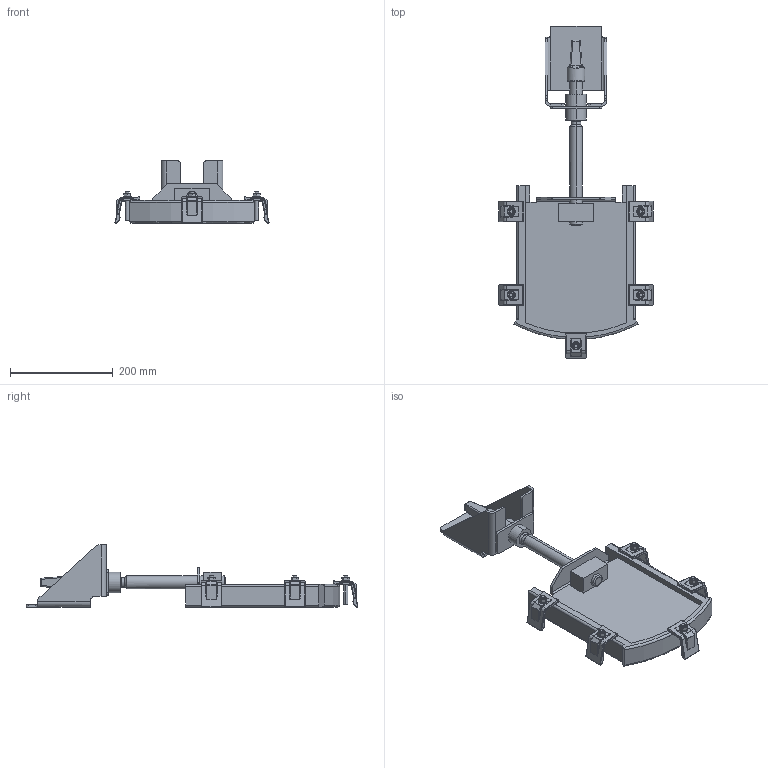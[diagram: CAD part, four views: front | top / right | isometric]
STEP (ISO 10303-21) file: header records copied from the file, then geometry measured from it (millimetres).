
FILE_DESCRIPTION (( 'STEP AP214' ), '1' );
FILE_NAME ('LW 150 gerad klemmen.STEP', '2022-05-18T12:59:32', ( '' ), ( '' ), 'SwSTEP 2.0', 'SolidWorks 2021', '' );
FILE_SCHEMA (( 'AUTOMOTIVE_DESIGN' ));
Length unit declared in the file: millimetre
Products named in the file (1): LW 150 gerad klemmen
Bounding box: 299.57 x 645.79 x 121 mm (x, y, z)
Volume: 1512443.8 mm3; surface area: 417955 mm2
Topology: 1 solids, 1 shells, 892 faces, 2073 edges, 1154 vertices
Faces by surface type: cylinder 333, plane 284, sphere 73, cone 72, torus 68, bspline 62
Entity records: 37034 total; most frequent: CARTESIAN_POINT 7772, DIRECTION 4202, ORIENTED_EDGE 3998, EDGE_CURVE 1999, AXIS2_PLACEMENT_3D 1656, VERTEX_POINT 1144, EDGE_LOOP 937, UNCERTAINTY_MEASURE_WITH_UNIT 895
